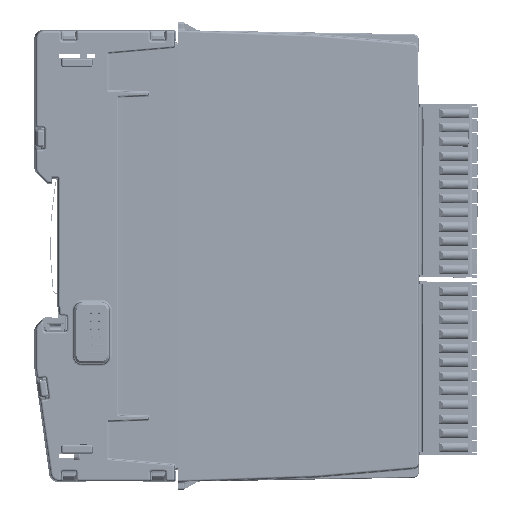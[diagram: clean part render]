
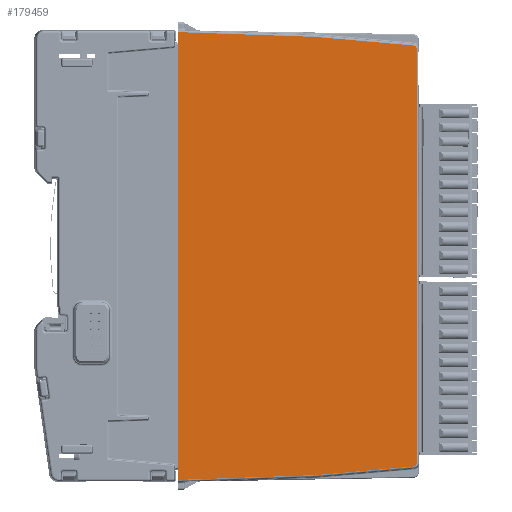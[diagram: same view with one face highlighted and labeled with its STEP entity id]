
A CAD part, left-side view. The second image highlights one B-rep face of the part: STEP entity #179459.
In plain terms, the highlighted planar face has unit normal (-1, -0.018, 0).
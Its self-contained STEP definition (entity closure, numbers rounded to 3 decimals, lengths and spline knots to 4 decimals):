
#16665=FACE_OUTER_BOUND('',#26614,.T.);
#26614=EDGE_LOOP('',(#141566,#141567,#141568,#141569,#141570,#141571,#141572,
#141573,#141574,#141575));
#42718=LINE('',#298599,#60403);
#42719=LINE('',#298601,#60404);
#42720=LINE('',#298603,#60405);
#42721=LINE('',#298605,#60406);
#42722=LINE('',#298607,#60407);
#42723=LINE('',#298611,#60408);
#42724=LINE('',#298615,#60409);
#42725=LINE('',#298616,#60410);
#60403=VECTOR('',#229471,39.3701);
#60404=VECTOR('',#229472,39.3701);
#60405=VECTOR('',#229473,39.3701);
#60406=VECTOR('',#229474,39.3701);
#60407=VECTOR('',#229475,39.3701);
#60408=VECTOR('',#229478,39.3701);
#60409=VECTOR('',#229481,39.3701);
#60410=VECTOR('',#229482,39.3701);
#66956=ELLIPSE('',#192772,0.0315,0.0315);
#66957=ELLIPSE('',#192773,0.0315,0.0315);
#78381=VERTEX_POINT('',#298597);
#78382=VERTEX_POINT('',#298598);
#78383=VERTEX_POINT('',#298600);
#78384=VERTEX_POINT('',#298602);
#78385=VERTEX_POINT('',#298604);
#78386=VERTEX_POINT('',#298606);
#78387=VERTEX_POINT('',#298608);
#78388=VERTEX_POINT('',#298610);
#78389=VERTEX_POINT('',#298612);
#78390=VERTEX_POINT('',#298614);
#100365=EDGE_CURVE('',#78381,#78382,#42718,.T.);
#100366=EDGE_CURVE('',#78383,#78382,#42719,.T.);
#100367=EDGE_CURVE('',#78383,#78384,#42720,.T.);
#100368=EDGE_CURVE('',#78384,#78385,#42721,.T.);
#100369=EDGE_CURVE('',#78385,#78386,#42722,.T.);
#100370=EDGE_CURVE('',#78386,#78387,#66956,.T.);
#100371=EDGE_CURVE('',#78387,#78388,#42723,.T.);
#100372=EDGE_CURVE('',#78388,#78389,#66957,.T.);
#100373=EDGE_CURVE('',#78389,#78390,#42724,.T.);
#100374=EDGE_CURVE('',#78390,#78381,#42725,.T.);
#141566=ORIENTED_EDGE('',*,*,#100365,.T.);
#141567=ORIENTED_EDGE('',*,*,#100366,.F.);
#141568=ORIENTED_EDGE('',*,*,#100367,.T.);
#141569=ORIENTED_EDGE('',*,*,#100368,.T.);
#141570=ORIENTED_EDGE('',*,*,#100369,.T.);
#141571=ORIENTED_EDGE('',*,*,#100370,.T.);
#141572=ORIENTED_EDGE('',*,*,#100371,.T.);
#141573=ORIENTED_EDGE('',*,*,#100372,.T.);
#141574=ORIENTED_EDGE('',*,*,#100373,.T.);
#141575=ORIENTED_EDGE('',*,*,#100374,.T.);
#161807=PLANE('',#192771);
#179459=ADVANCED_FACE('',(#16665),#161807,.T.);
#192771=AXIS2_PLACEMENT_3D('',#298596,#229469,#229470);
#192772=AXIS2_PLACEMENT_3D('',#298609,#229476,#229477);
#192773=AXIS2_PLACEMENT_3D('',#298613,#229479,#229480);
#229469=DIRECTION('center_axis',(-1.,-0.017,
0.));
#229470=DIRECTION('ref_axis',(-0.017,1.,0.));
#229471=DIRECTION('',(0.,0.,-1.));
#229472=DIRECTION('',(0.,0.,1.));
#229473=DIRECTION('',(0.,0.,-1.));
#229474=DIRECTION('',(0.017,-0.999,0.035));
#229475=DIRECTION('',(0.017,-0.996,0.087));
#229476=DIRECTION('center_axis',(-1.,-0.017,
0.));
#229477=DIRECTION('ref_axis',(0.017,-1.,0.));
#229478=DIRECTION('',(0.,0.,1.));
#229479=DIRECTION('center_axis',(-1.,-0.017,
0.));
#229480=DIRECTION('ref_axis',(0.017,-1.,0.));
#229481=DIRECTION('',(-0.017,0.996,0.087));
#229482=DIRECTION('',(-0.017,0.999,0.035));
#298596=CARTESIAN_POINT('Origin',(-0.0296,-0.489,
-2.0669));
#298597=CARTESIAN_POINT('',(-0.0227,-0.8827,0.1083));
#298598=CARTESIAN_POINT('',(-0.0227,-0.8827,-0.0312));
#298599=CARTESIAN_POINT('',(-0.0227,-0.8827,0.128));
#298600=CARTESIAN_POINT('',(-0.0227,-0.8827,-4.1027));
#298601=CARTESIAN_POINT('',(-0.0227,-0.8827,-7.5932));
#298602=CARTESIAN_POINT('',(-0.0227,-0.8827,-4.2421));
#298603=CARTESIAN_POINT('',(-0.0227,-0.8827,0.128));
#298604=CARTESIAN_POINT('',(0.0007,-2.2205,-4.1954));
#298605=CARTESIAN_POINT('',(-0.0282,-0.5654,-4.2532));
#298606=CARTESIAN_POINT('',(0.0174,-3.1772,-4.1117));
#298607=CARTESIAN_POINT('',(-0.0261,-0.6869,-4.3296));
#298608=CARTESIAN_POINT('',(0.0179,-3.2059,-4.0803));
#298609=CARTESIAN_POINT('Origin',(0.0173,-3.1744,
-4.0803));
#298610=CARTESIAN_POINT('',(0.0179,-3.2059,-0.0535));
#298611=CARTESIAN_POINT('',(0.0179,-3.2059,-0.0535));
#298612=CARTESIAN_POINT('',(0.0174,-3.1772,-0.0221));
#298613=CARTESIAN_POINT('Origin',(0.0173,-3.1744,
-0.0535));
#298614=CARTESIAN_POINT('',(0.0007,-2.2205,0.0616));
#298615=CARTESIAN_POINT('',(-0.0261,-0.6869,0.1957));
#298616=CARTESIAN_POINT('',(-0.0282,-0.5654,0.1194));
